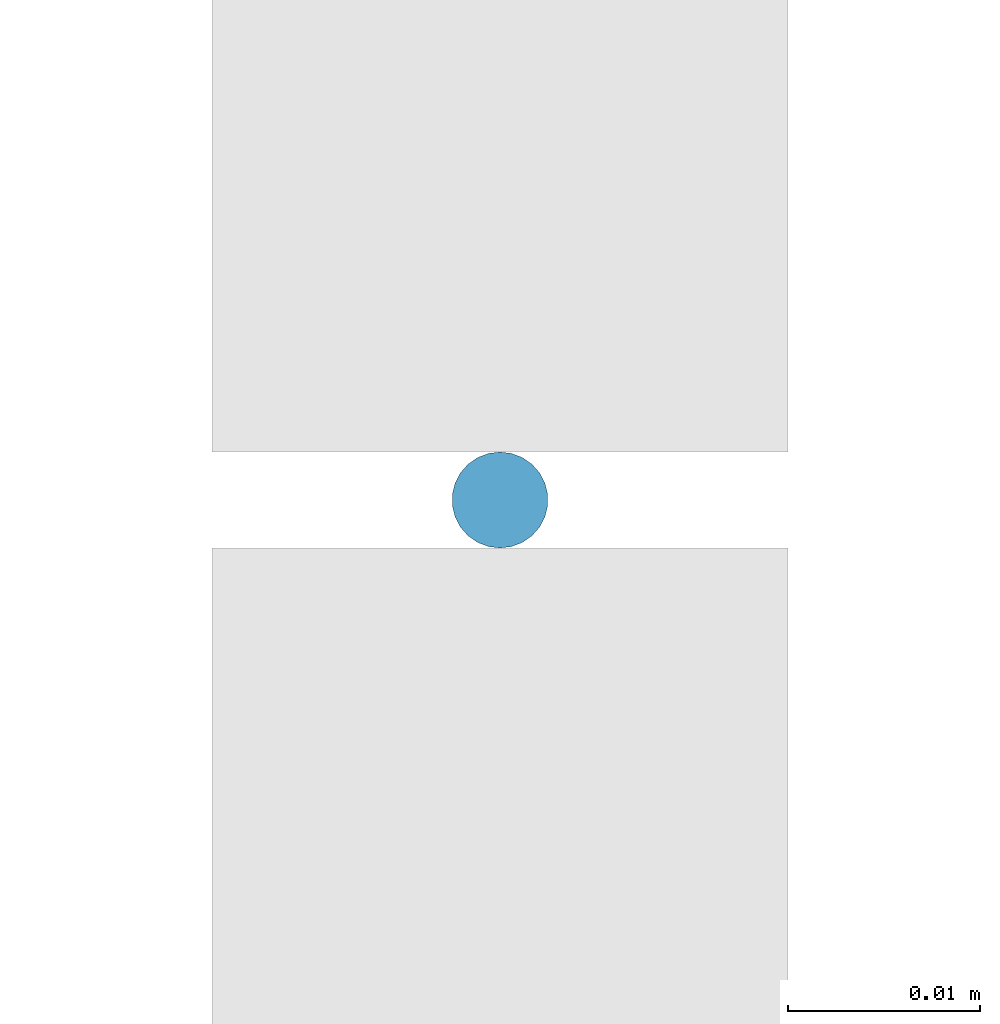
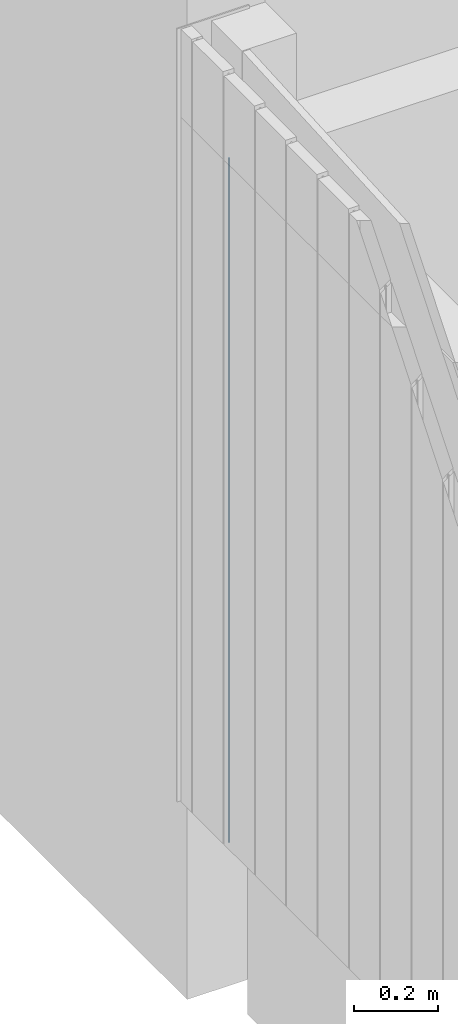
# One storey, part 40 of 81: 1 member, 1 element without a shape of its own.
"""IFC2X3 building model written with IfcOpenShell, lengths in metres."""

from ifc_helpers import new_model, entity, si_unit, converted_unit, derived_unit, direction, frame, frame_2d, origin, place, context, subcontext, project, spatial, circle, extrude, source, transform, mapped, material, type_object, type_shapes, element, aggregate, save


model = new_model("IFC2X3")

# Units and contexts
model_context = context("Model", 3, precision=1e-05, world=origin(), true_north=direction((6.12303176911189e-17, 1.0)))
body_context = subcontext(model_context, "Body", "Model", "MODEL_VIEW")
ifc_project = project(units=[si_unit("LENGTHUNIT", "METRE"), si_unit("AREAUNIT", "SQUARE_METRE"), si_unit("VOLUMEUNIT", "CUBIC_METRE"), converted_unit("PLANEANGLEUNIT", "DEGREE", entity("IfcRatioMeasure", 0.0174532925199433), si_unit("PLANEANGLEUNIT", "RADIAN"), dimensions=[0, 0, 0, 0, 0, 0, 0]), si_unit("MASSUNIT", "GRAM", prefix="KILO"), derived_unit("MASSDENSITYUNIT", [(si_unit("MASSUNIT", "GRAM", prefix="KILO"), 1), (si_unit("LENGTHUNIT", "METRE"), -3)]), derived_unit("MOMENTOFINERTIAUNIT", [(si_unit("LENGTHUNIT", "METRE"), 4)]), si_unit("TIMEUNIT", "SECOND"), si_unit("FREQUENCYUNIT", "HERTZ"), si_unit("THERMODYNAMICTEMPERATUREUNIT", "DEGREE_CELSIUS"), derived_unit("THERMALTRANSMITTANCEUNIT", [(si_unit("MASSUNIT", "GRAM", prefix="KILO"), 1), (si_unit("THERMODYNAMICTEMPERATUREUNIT", "KELVIN"), -1), (si_unit("TIMEUNIT", "SECOND"), -3)]), derived_unit("VOLUMETRICFLOWRATEUNIT", [(si_unit("LENGTHUNIT", "METRE"), 3), (si_unit("TIMEUNIT", "SECOND"), -1)]), si_unit("ELECTRICCURRENTUNIT", "AMPERE"), si_unit("ELECTRICVOLTAGEUNIT", "VOLT"), si_unit("POWERUNIT", "WATT"), si_unit("FORCEUNIT", "NEWTON", prefix="KILO"), si_unit("ILLUMINANCEUNIT", "LUX"), si_unit("LUMINOUSFLUXUNIT", "LUMEN"), si_unit("LUMINOUSINTENSITYUNIT", "CANDELA"), derived_unit("USERDEFINED", [(si_unit("MASSUNIT", "GRAM", prefix="KILO"), -1), (si_unit("LENGTHUNIT", "METRE"), -2), (si_unit("TIMEUNIT", "SECOND"), 3), (si_unit("LUMINOUSFLUXUNIT", "LUMEN"), 1)]), derived_unit("LINEARVELOCITYUNIT", [(si_unit("LENGTHUNIT", "METRE"), 1), (si_unit("TIMEUNIT", "SECOND"), -1)]), si_unit("PRESSUREUNIT", "PASCAL"), derived_unit("USERDEFINED", [(si_unit("LENGTHUNIT", "METRE"), -2), (si_unit("MASSUNIT", "GRAM", prefix="KILO"), 1), (si_unit("TIMEUNIT", "SECOND"), -2)]), derived_unit("LINEARFORCEUNIT", [(si_unit("MASSUNIT", "GRAM", prefix="KILO"), 1), (si_unit("LENGTHUNIT", "METRE"), 1), (si_unit("TIMEUNIT", "SECOND"), -2), (si_unit("LENGTHUNIT", "METRE"), -1)]), derived_unit("PLANARFORCEUNIT", [(si_unit("MASSUNIT", "GRAM", prefix="KILO"), 1), (si_unit("LENGTHUNIT", "METRE"), 1), (si_unit("TIMEUNIT", "SECOND"), -2), (si_unit("LENGTHUNIT", "METRE"), -2)])], contexts=[model_context])

# Site, building, storey
site_placement = place(None, origin())
site = spatial("IfcSite", under=ifc_project, at=site_placement, Name="Surface", CompositionType="ELEMENT")
building_placement = place(site_placement, origin())
building = spatial("IfcBuilding", under=site, at=building_placement, CompositionType="ELEMENT")
storey_placement = place(building_placement, origin())
storey = spatial("IfcBuildingStorey", under=building, at=storey_placement, Name="01 RDC", CompositionType="ELEMENT", Elevation=-1.94916083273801e-14)

# Curtain wall, member
curtain_wall_type = type_object("IfcCurtainWallType", Name="Mur-rideau:1m x 2m", PredefinedType="NOTDEFINED")
curtain_wall_placement = place(storey_placement, origin())
curtain_wall = element("IfcCurtainWall", 1, at=curtain_wall_placement, inside=storey, type_object=curtain_wall_type, Name="Mur-rideau:1m x 2m", ObjectType="Mur-rideau:1m x 2m")
ifc_material = material(Name="Aluminium - Vert")
member_type = type_object("IfcMemberType", Name="Meneau circulaire:R-30 mm", PredefinedType="MULLION", material=ifc_material)
shared_shape = source(origin(), body_context, "Body", "SweptSolid", [
    extrude(circle(Radius=0.0025, at=frame_2d((-8.37005581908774e-27, 3.23452349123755e-15), x_axis=(1.0, 0.0))), frame((0.0, 0.0, -2.0), z_axis=(0.0, 0.0, 1.0), x_axis=(-1.0, 0.0, 0.0)), (0.0, 0.0, 1.0), 2.0),
])
type_shapes(member_type, [shared_shape])
member_placement = place(storey_placement, frame((5.45983615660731, -3.90721095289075, 0.3), z_axis=(0.0, 0.0, -1.0), x_axis=(0.0, 1.0, 0.0)))
member = element("IfcMember", 2, at=member_placement, type_object=member_type, material=ifc_material, Name="Meneau circulaire:R-30 mm", ObjectType="Meneau circulaire:R-30 mm", context=body_context, shape_type="MappedRepresentation", body=[
    mapped(shared_shape, transform((0.0, 0.0, 0.0), scale=1.0)),
])
aggregate(curtain_wall, [member])

save(model, "model.ifc")
